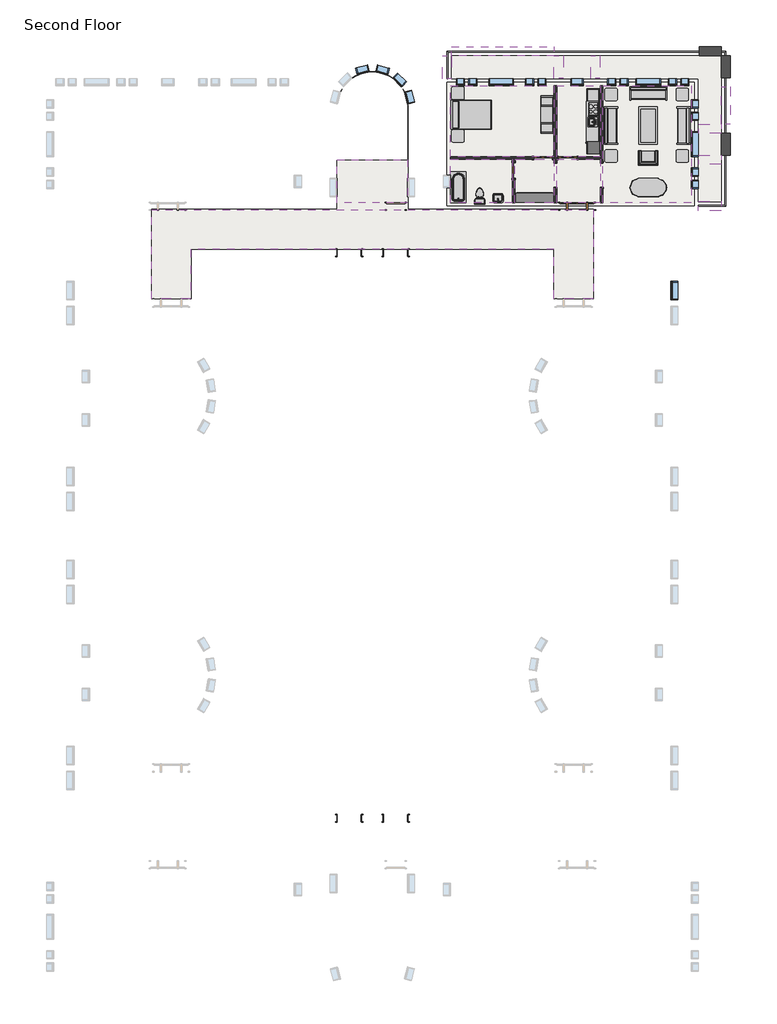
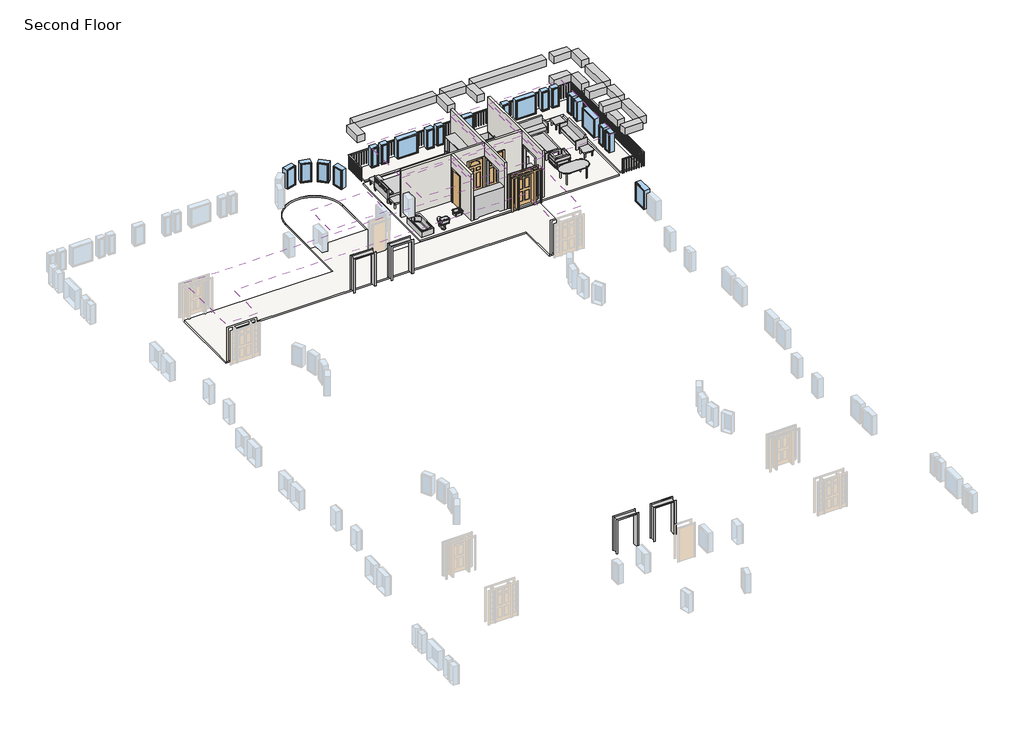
# One storey, part 2 of 2: 21 windows, 15 furniture elements, 11 beams, 8 coverings, 7 proxies, 5 walls, 4 doors, 3 flow terminals, 4 other elements.
"""IFC4 building model written with IfcOpenShell, lengths in millimetres."""

from ifc_helpers import new_model, si_unit, point, frame, frame_2d, origin, place, context, project, spatial, polyline, circle_curve, trimmed, segment, composite_curve, outline, extrude, faceted_brep, transform, mapped, element, save
from components import proxy_64a468c4, proxy_f44482cc, proxy_c3589814, proxy_1659ed5c, door_829da954, door_2e3b4da2, door_4d6c7550, door_dba5aa2e, flow_terminal_0aeb31e3, toilet_domestic_3d_toilet_domestic_3d_f7549cf7, toilet_domestic_3d_toilet_domestic_3d_183bbd19, tub_rectangular_3d_tub_rectangular_3d_5e45a89b, furniture_096e7f55, chair_corbu_chair_corbu_2764bdef, furniture_7c473f12, furniture_ddc78764, furniture_4ef38d96, furniture_cd93a443, furniture_2c34a4f9, furniture_3a588284, furniture_1befe2a2, handrail_rectangular_d66f6947, window_da97879f, window_d61ef850, window_60baf983, window_0e2fc6ce, window_6eb97611

model = new_model("IFC4")

# Units and contexts
model_context = context("Model", 3, world=origin())
ifc_project = project(units=[si_unit("LENGTHUNIT", "METRE", prefix="MILLI")], contexts=[model_context])

# Site, building, storey
site = spatial("IfcSite", under=ifc_project)
building = spatial("IfcBuilding", under=site)
storey = spatial("IfcBuildingStorey", under=building, Name="Second Floor", Elevation=3048.0)

# Beams
placement = place(None, origin())
element("IfcBeam", 1, ObjectType="Concrete-Rectangular Beam : 18 x 18", at=placement, inside=storey, context=model_context, shape_type="SweptSolid", body=[
    extrude(outline(polyline([(2093.9410437, 12198.8316867), (2093.9410437, 11741.6316867), (1027.1410437, 11741.6316867), (1027.1410437, 12198.8316867), (2093.9410437, 12198.8316867)])), frame((0.0, 0.0, 5638.8), z_axis=(0.0, 0.0, 1.0), x_axis=(1.0, 0.0, 0.0)), (0.0, 0.0, 1.0), 457.2),
    extrude(outline(polyline([(569.9410437, 12198.8316867), (569.9410437, 11741.6316867), (-3862.3589563, 11741.6316867), (-3862.3589563, 12198.8316867), (569.9410437, 12198.8316867)])), frame((0.0, 0.0, 5638.8), z_axis=(0.0, 0.0, 1.0), x_axis=(1.0, 0.0, 0.0)), (0.0, 0.0, 1.0), 457.2),
    extrude(outline(polyline([(-5665.7589563, 11741.6316867), (-5665.7589563, 12198.8316867), (-4319.5589563, 12198.8316867), (-4319.5589563, 11741.6316867), (-5665.7589563, 11741.6316867)])), frame((0.0, 0.0, 5638.8), z_axis=(0.0, 0.0, 1.0), x_axis=(1.0, 0.0, 0.0)), (0.0, 0.0, 1.0), 457.2),
    extrude(outline(polyline([(-6122.9589563, 12198.8316867), (-6122.9589563, 11741.6316867), (-11164.8589563, 11741.6316867), (-11164.8589563, 12198.8316867), (-6122.9589563, 12198.8316867)])), frame((0.0, 0.0, 5638.8), z_axis=(0.0, 0.0, 1.0), x_axis=(1.0, 0.0, 0.0)), (0.0, 0.0, 1.0), 457.2),
])
element("IfcBeam", 2, ObjectType="Concrete-Rectangular Beam : 18 x 18", at=placement, inside=storey, context=model_context, shape_type="SweptSolid", body=[
    extrude(outline(polyline([(2093.9410437, 11741.6316867), (2551.1410437, 11741.6316867), (2551.1410437, 10674.8316867), (2093.9410437, 10674.8316867), (2093.9410437, 11741.6316867)])), frame((0.0, 0.0, 5638.8), z_axis=(0.0, 0.0, 1.0), x_axis=(1.0, 0.0, 0.0)), (0.0, 0.0, 1.0), 457.2),
    extrude(outline(polyline([(2551.1410437, 4578.8316867), (2093.9410437, 4578.8316867), (2093.9410437, 6407.6316867), (2551.1410437, 6407.6316867), (2551.1410437, 4578.8316867)])), frame((0.0, 0.0, 5638.8), z_axis=(0.0, 0.0, 1.0), x_axis=(1.0, 0.0, 0.0)), (0.0, 0.0, 1.0), 457.2),
    extrude(outline(polyline([(2551.1410437, 6864.8316867), (2093.9410437, 6864.8316867), (2093.9410437, 7931.6316867), (2551.1410437, 7931.6316867), (2551.1410437, 6864.8316867)])), frame((0.0, 0.0, 5638.8), z_axis=(0.0, 0.0, 1.0), x_axis=(1.0, 0.0, 0.0)), (0.0, 0.0, 1.0), 457.2),
    extrude(outline(polyline([(2093.9410437, 10217.6316867), (2551.1410437, 10217.6316867), (2551.1410437, 8388.8316867), (2093.9410437, 8388.8316867), (2093.9410437, 10217.6316867)])), frame((0.0, 0.0, 5638.8), z_axis=(0.0, 0.0, 1.0), x_axis=(1.0, 0.0, 0.0)), (0.0, 0.0, 1.0), 457.2),
])
element("IfcBeam", 3, ObjectType="Concrete-Rectangular Beam : 18 x 18", at=placement, inside=storey, context=model_context, shape_type="SweptSolid", body=[
    extrude(outline(polyline([(2093.9410437, 12198.8316867), (2093.9410437, 11741.6316867), (1027.1410437, 11741.6316867), (1027.1410437, 12198.8316867), (2093.9410437, 12198.8316867)])), frame((0.0, 0.0, 4114.8), z_axis=(0.0, 0.0, 1.0), x_axis=(1.0, 0.0, 0.0)), (0.0, 0.0, 1.0), 457.2),
])
element("IfcBeam", 4, ObjectType="Concrete-Rectangular Beam : 18 x 18", at=placement, inside=storey, context=model_context, shape_type="SweptSolid", body=[
    extrude(outline(polyline([(2551.1410437, 10674.8316867), (2093.9410437, 10674.8316867), (2093.9410437, 11741.6316867), (2551.1410437, 11741.6316867), (2551.1410437, 10674.8316867)])), frame((0.0, 0.0, 4114.8), z_axis=(0.0, 0.0, 1.0), x_axis=(1.0, 0.0, 0.0)), (0.0, 0.0, 1.0), 457.2),
])
element("IfcBeam", 5, ObjectType="Concrete-Rectangular Beam : 18 x 18", at=placement, inside=storey, context=model_context, shape_type="SweptSolid", body=[
    extrude(outline(polyline([(-11164.8589563, 10624.0316867), (-11622.0589563, 10624.0316867), (-11622.0589563, 11741.6316867), (-11164.8589563, 11741.6316867), (-11164.8589563, 10624.0316867)])), frame((0.0, 0.0, 5638.8), z_axis=(0.0, 0.0, 1.0), x_axis=(1.0, 0.0, 0.0)), (0.0, 0.0, 1.0), 457.2),
])
element("IfcBeam", 6, ObjectType="Concrete-Rectangular Beam : 18 x 18", at=placement, inside=storey, context=model_context, shape_type="SweptSolid", body=[
    extrude(outline(polyline([(-5665.7589563, 10643.0816867), (-6122.9589563, 10643.0816867), (-6122.9589563, 11741.6316867), (-5665.7589563, 11741.6316867), (-5665.7589563, 10643.0816867)])), frame((0.0, 0.0, 5638.8), z_axis=(0.0, 0.0, 1.0), x_axis=(1.0, 0.0, 0.0)), (0.0, 0.0, 1.0), 457.2),
])
element("IfcBeam", 7, ObjectType="Concrete-Rectangular Beam : 18 x 18", at=placement, inside=storey, context=model_context, shape_type="SweptSolid", body=[
    extrude(outline(polyline([(1001.7410437, 6407.6316867), (1001.7410437, 6864.8316867), (2093.9410437, 6864.8316867), (2093.9410437, 6407.6316867), (1001.7410437, 6407.6316867)])), frame((0.0, 0.0, 5638.8), z_axis=(0.0, 0.0, 1.0), x_axis=(1.0, 0.0, 0.0)), (0.0, 0.0, 1.0), 457.2),
])
element("IfcBeam", 8, ObjectType="Concrete-Rectangular Beam : 18 x 18", at=placement, inside=storey, context=model_context, shape_type="SweptSolid", body=[
    extrude(outline(polyline([(-3862.3589563, 10643.0816867), (-4319.5589563, 10643.0816867), (-4319.5589563, 11741.6316867), (-3862.3589563, 11741.6316867), (-3862.3589563, 10643.0816867)])), frame((0.0, 0.0, 5638.8), z_axis=(0.0, 0.0, 1.0), x_axis=(1.0, 0.0, 0.0)), (0.0, 0.0, 1.0), 457.2),
])
element("IfcBeam", 9, ObjectType="Concrete-Rectangular Beam : 18 x 18", at=placement, inside=storey, context=model_context, shape_type="SweptSolid", body=[
    extrude(outline(polyline([(1001.7410437, 7931.6316867), (1001.7410437, 8388.8316867), (2093.9410437, 8388.8316867), (2093.9410437, 7931.6316867), (1001.7410437, 7931.6316867)])), frame((0.0, 0.0, 5638.8), z_axis=(0.0, 0.0, 1.0), x_axis=(1.0, 0.0, 0.0)), (0.0, 0.0, 1.0), 457.2),
])
element("IfcBeam", 10, ObjectType="Concrete-Rectangular Beam : 18 x 18", at=placement, inside=storey, context=model_context, shape_type="SweptSolid", body=[
    extrude(outline(polyline([(976.3410437, 4121.6316867), (976.3410437, 4578.8316867), (2093.9410437, 4578.8316867), (2093.9410437, 4121.6316867), (976.3410437, 4121.6316867)])), frame((0.0, 0.0, 5638.8), z_axis=(0.0, 0.0, 1.0), x_axis=(1.0, 0.0, 0.0)), (0.0, 0.0, 1.0), 457.2),
])
element("IfcBeam", 11, ObjectType="Concrete-Rectangular Beam : 18 x 18", at=placement, inside=storey, context=model_context, shape_type="SweptSolid", body=[
    extrude(outline(polyline([(2551.1410437, 6864.8316867), (2093.9410437, 6864.8316867), (2093.9410437, 7931.6316867), (2551.1410437, 7931.6316867), (2551.1410437, 6864.8316867)])), frame((0.0, 0.0, 4114.8), z_axis=(0.0, 0.0, 1.0), x_axis=(1.0, 0.0, 0.0)), (0.0, 0.0, 1.0), 457.2),
])

# Proxies
proxy_shape = proxy_64a468c4(model_context)
element("IfcBuildingElementProxy", 12, Name="Kitchenette - Medium : 8'6\"", ObjectType="Kitchenette - Medium : 8'6\"", at=placement, inside=storey, context=model_context, shape_type="MappedRepresentation", body=[
    mapped(proxy_shape, transform((-3887.7589563, 8837.7956433, 3048.0), x_axis=(0.0, -1.0, 0.0), y_axis=(1.0, 0.0, 0.0), z_axis=(0.0, 0.0, 1.0))),
])
proxy_2_shape = proxy_f44482cc(model_context)
element("IfcBuildingElementProxy", 13, Name="Opening-Cased : 48\" x 84\"", ObjectType="Opening-Cased : 48\" x 84\"", at=placement, inside=storey, context=model_context, shape_type="MappedRepresentation", body=[
    mapped(proxy_2_shape, transform((-3773.4589563, 5882.4203434, 3048.0), x_axis=(0.0, 1.0, 0.0), y_axis=(-1.0, 0.0, 0.0), z_axis=(0.0, 0.0, 1.0))),
])
element("IfcBuildingElementProxy", 14, Name="Opening-Cased : 48\" x 84\"", ObjectType="Opening-Cased : 48\" x 84\"", at=placement, inside=storey, context=model_context, shape_type="MappedRepresentation", body=[
    mapped(proxy_2_shape, transform((-6059.4589563, 5866.04303, 3048.0), x_axis=(0.0, -1.0, 0.0), y_axis=(1.0, 0.0, 0.0), z_axis=(0.0, 0.0, 1.0))),
])
proxy_3_shape = proxy_c3589814(model_context)
element("IfcBuildingElementProxy", 15, Name="Opening-Cased : 48\" x 84\"", ObjectType="Opening-Cased : 48\" x 84\"", at=placement, inside=storey, context=model_context, shape_type="MappedRepresentation", body=[
    mapped(proxy_3_shape, transform((-16213.360113, 2064.2316867, 3048.0), x_axis=(-1.0, 0.0, 0.0), y_axis=(0.0, -1.0, 0.0), z_axis=(0.0, 0.0, 1.0))),
])
element("IfcBuildingElementProxy", 16, Name="Opening-Cased : 48\" x 84\"", ObjectType="Opening-Cased : 48\" x 84\"", at=placement, inside=storey, context=model_context, shape_type="MappedRepresentation", body=[
    mapped(proxy_3_shape, transform((-13927.360113, 2064.2316867, 3048.0), x_axis=(-1.0, 0.0, 0.0), y_axis=(0.0, -1.0, 0.0), z_axis=(0.0, 0.0, 1.0))),
])
proxy_4_shape = proxy_1659ed5c(model_context)
element("IfcBuildingElementProxy", 17, Name="Opening-Cased : 48\" x 84\"", ObjectType="Opening-Cased : 48\" x 84\"", at=placement, inside=storey, context=model_context, shape_type="MappedRepresentation", body=[
    mapped(proxy_4_shape, transform((-16213.360113, -25755.1183133, 3048.0), x_axis=(-1.0, 0.0, 0.0), y_axis=(0.0, -1.0, 0.0), z_axis=(0.0, 0.0, 1.0))),
])
element("IfcBuildingElementProxy", 18, Name="Opening-Cased : 48\" x 84\"", ObjectType="Opening-Cased : 48\" x 84\"", at=placement, inside=storey, context=model_context, shape_type="MappedRepresentation", body=[
    mapped(proxy_4_shape, transform((-13927.360113, -25755.1183133, 3048.0), x_axis=(-1.0, 0.0, 0.0), y_axis=(0.0, -1.0, 0.0), z_axis=(0.0, 0.0, 1.0))),
])

# Coverings
element("IfcCovering", 19, ObjectType="GWB on Mtl. Stud", at=placement, inside=storey, context=model_context, shape_type="SweptSolid", body=[
    extrude(outline(polyline([(-11217.2464563, 10270.0191867), (-6122.9589563, 10270.0191867), (-6122.9589563, 6787.0441867), (-11217.2464563, 6787.0441867), (-11217.2464563, 10270.0191867)])), frame((0.0, 0.0, 5638.8), z_axis=(0.0, 0.0, 1.0), x_axis=(1.0, 0.0, 0.0)), (0.0, 0.0, 1.0), 107.95),
])
element("IfcCovering", 20, ObjectType="GWB on Mtl. Stud", at=placement, inside=storey, context=model_context, shape_type="SweptSolid", body=[
    extrude(outline(polyline([(-5995.9589563, 6787.0441867), (-5995.9589563, 10270.0191867), (-3836.9589563, 10270.0191867), (-3836.9589563, 6787.0441867), (-5995.9589563, 6787.0441867)])), frame((0.0, 0.0, 5638.8), z_axis=(0.0, 0.0, 1.0), x_axis=(1.0, 0.0, 0.0)), (0.0, 0.0, 1.0), 107.95),
])
element("IfcCovering", 21, ObjectType="GWB on Mtl. Stud", at=placement, inside=storey, context=model_context, shape_type="SweptSolid", body=[
    extrude(outline(polyline([(-3709.9589563, 4526.4441867), (-3709.9589563, 10270.0191867), (622.3285437, 10270.0191867), (622.3285437, 4526.4441867), (-3709.9589563, 4526.4441867)])), frame((0.0, 0.0, 5638.8), z_axis=(0.0, 0.0, 1.0), x_axis=(1.0, 0.0, 0.0)), (0.0, 0.0, 1.0), 107.95),
])
element("IfcCovering", 22, ObjectType="GWB on Mtl. Stud", at=placement, inside=storey, context=model_context, shape_type="SweptSolid", body=[
    extrude(outline(polyline([(-3836.9589563, 4526.4441867), (-5995.9589563, 4526.4441867), (-5995.9589563, 6660.0441867), (-3836.9589563, 6660.0441867), (-3836.9589563, 4526.4441867)])), frame((0.0, 0.0, 5638.8), z_axis=(0.0, 0.0, 1.0), x_axis=(1.0, 0.0, 0.0)), (0.0, 0.0, 1.0), 107.95),
])
element("IfcCovering", 23, ObjectType="GWB on Mtl. Stud", at=placement, inside=storey, context=model_context, shape_type="SweptSolid", body=[
    extrude(outline(polyline([(-6122.9589563, 4526.4441867), (-8042.2464563, 4526.4441867), (-8042.2464563, 6660.0441867), (-6122.9589563, 6660.0441867), (-6122.9589563, 4526.4441867)])), frame((0.0, 0.0, 5638.8), z_axis=(0.0, 0.0, 1.0), x_axis=(1.0, 0.0, 0.0)), (0.0, 0.0, 1.0), 107.95),
])
element("IfcCovering", 24, ObjectType="GWB on Mtl. Stud", at=placement, inside=storey, context=model_context, shape_type="SweptSolid", body=[
    extrude(outline(polyline([(-8169.2464563, 6660.0441867), (-8169.2464563, 4526.4441867), (-11217.2464563, 4526.4441867), (-11217.2464563, 6660.0441867), (-8169.2464563, 6660.0441867)])), frame((0.0, 0.0, 5638.8), z_axis=(0.0, 0.0, 1.0), x_axis=(1.0, 0.0, 0.0)), (0.0, 0.0, 1.0), 107.95),
])
element("IfcCovering", 25, ObjectType="GWB on Mtl. Stud", at=placement, inside=storey, context=model_context, shape_type="SweptSolid", body=[
    extrude(outline(polyline([(-13333.3839563, 4526.4441867), (-16790.9589563, 4526.4441867), (-16790.9589563, 6636.2316867), (-13333.3839563, 6636.2316867), (-13333.3839563, 4526.4441867)])), frame((0.0, 0.0, 5486.4), z_axis=(0.0, 0.0, 1.0), x_axis=(1.0, 0.0, 0.0)), (0.0, 0.0, 1.0), 107.95),
])
element("IfcCovering", 26, ObjectType="GWB on Mtl. Stud", at=placement, inside=storey, context=model_context, shape_type="SweptSolid", body=[
    extrude(outline(polyline([(-6122.9589563, -197.9558133), (-6122.9589563, 2240.4441867), (-24001.3839563, 2240.4441867), (-24001.3839563, -197.9558133), (-25934.9589563, -197.9558133), (-25934.9589563, 4174.0191867), (-4189.3839563, 4174.0191867), (-4189.3839563, -197.9558133), (-6122.9589563, -197.9558133)])), frame((0.0, 0.0, 5486.4), z_axis=(0.0, 0.0, 1.0), x_axis=(1.0, 0.0, 0.0)), (0.0, 0.0, 1.0), 107.95),
])

# Doors
door_shape = door_829da954(model_context)
element("IfcDoor", 27, ObjectType="Single-Decorative 2 : 36\" x 84\"", at=placement, inside=storey, context=model_context, shape_type="MappedRepresentation", body=[
    mapped(door_shape, transform((-5449.8589563, 6723.5441867, 3048.0), x_axis=(-1.0, 0.0, 0.0), y_axis=(0.0, -1.0, 0.0), z_axis=(0.0, 0.0, 1.0))),
])
door_2_shape = door_2e3b4da2(model_context)
element("IfcDoor", 28, ObjectType="Single-Decorative 2 : 36\" x 84\"", at=placement, inside=storey, context=model_context, shape_type="MappedRepresentation", body=[
    mapped(door_2_shape, transform((-6669.0589563, 6723.5441867, 3048.0), x_axis=(1.0, 0.0, 0.0), y_axis=(0.0, 1.0, 0.0), z_axis=(0.0, 0.0, 1.0))),
])
door_3_shape = door_4d6c7550(model_context)
element("IfcDoor", 29, ObjectType="Single-Flush : 30\" x 84\"", at=placement, inside=storey, context=model_context, shape_type="MappedRepresentation", body=[
    mapped(door_3_shape, transform((-8105.7464563, 6113.9441867, 3048.0), x_axis=(0.0, 1.0, 0.0), y_axis=(-1.0, 0.0, 0.0), z_axis=(0.0, 0.0, 1.0))),
])
door_4_shape = door_dba5aa2e(model_context)
element("IfcDoor", 30, ObjectType="Single-Raised Panel with Sidelights : 36\" x 84\"", at=placement, inside=storey, context=model_context, shape_type="MappedRepresentation", body=[
    mapped(door_4_shape, transform((-4992.6589563, 4350.2316867, 3048.0), x_axis=(-1.0, 0.0, 0.0), y_axis=(0.0, -1.0, 0.0), z_axis=(0.0, 0.0, 1.0))),
])

# Flow terminals
flow_terminal_shape = flow_terminal_0aeb31e3(model_context)
element("IfcFlowTerminal", 31, ObjectType="Sink Vanity-Square : 24\" x 19\"", at=placement, inside=storey, context=model_context, shape_type="MappedRepresentation", body=[
    mapped(flow_terminal_shape, transform((-8864.7572157, 4706.5895878, 3048.0), x_axis=(-1.0, 0.0, 0.0), y_axis=(0.0, -1.0, 0.0), z_axis=(0.0, 0.0, 1.0))),
])
toilet_domestic_3d_toilet_domestic_3d_shape = toilet_domestic_3d_toilet_domestic_3d_f7549cf7(model_context)
toilet_domestic_3d_toilet_domestic_3d_2_shape = toilet_domestic_3d_toilet_domestic_3d_183bbd19(model_context)
element("IfcFlowTerminal", 32, ObjectType="Toilet-Domestic-3D : Toilet-Domestic-3D", at=placement, inside=storey, context=model_context, shape_type="MappedRepresentation", body=[
    mapped(toilet_domestic_3d_toilet_domestic_3d_shape, transform((-9782.1466587, 4940.866411, 3048.0), x_axis=(-1.0000000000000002, 0.0, 0.0), y_axis=(0.0, -1.0000000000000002, 0.0), z_axis=(0.0, 0.0, 1.0))),
    mapped(toilet_domestic_3d_toilet_domestic_3d_2_shape, transform((-9782.1466587, 4940.866411, 3048.0), x_axis=(-1.0000000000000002, 0.0, 0.0), y_axis=(0.0, -1.0000000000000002, 0.0), z_axis=(0.0, 0.0, 1.0))),
])
tub_rectangular_3d_tub_rectangular_3d_shape = tub_rectangular_3d_tub_rectangular_3d_5e45a89b(model_context)
element("IfcFlowTerminal", 33, ObjectType="Tub-Rectangular-3D : Tub-Rectangular-3D", at=placement, inside=storey, context=model_context, shape_type="MappedRepresentation", body=[
    mapped(tub_rectangular_3d_tub_rectangular_3d_shape, transform((-11393.4589563, 5637.0471554, 3048.0), x_axis=(0.0, 1.0, 0.0), y_axis=(-1.0, 0.0, 0.0), z_axis=(0.0, 0.0, 1.0))),
])

# Furniture
furniture_shape = furniture_096e7f55(model_context)
element("IfcFurniture", 34, ObjectType="Bed-Shaker : Double 56\" x 78\"", at=placement, inside=storey, context=model_context, shape_type="MappedRepresentation", body=[
    mapped(furniture_shape, transform((-11183.1982802, 8871.8755561, 3048.0), x_axis=(0.0, 1.0, 0.0), y_axis=(-1.0, 0.0, 0.0), z_axis=(0.0, 0.0, 1.0))),
])
chair_corbu_chair_corbu_shape = chair_corbu_chair_corbu_2764bdef(model_context)
element("IfcFurniture", 35, ObjectType="Chair-Corbu : Chair-Corbu", at=placement, inside=storey, context=model_context, shape_type="MappedRepresentation", body=[
    mapped(chair_corbu_chair_corbu_shape, transform((-914.0851858, 7193.4962359, 3048.0), x_axis=(-1.0, 0.0, 0.0), y_axis=(0.0, -1.0, 0.0), z_axis=(0.0, 0.0, 1.0))),
])
furniture_2_shape = furniture_7c473f12(model_context)
element("IfcFurniture", 36, ObjectType="Dresser : 72\" x 60\" x 18\"", at=placement, inside=storey, context=model_context, shape_type="MappedRepresentation", body=[
    mapped(furniture_2_shape, transform((-7344.6522161, 4404.5812326, 3048.0), x_axis=(-1.0, 0.0, 0.0), y_axis=(0.0, -1.0, 0.0), z_axis=(0.0, 0.0, 1.0))),
])
furniture_3_shape = furniture_ddc78764(model_context)
element("IfcFurniture", 37, ObjectType="Entertainment Center : 72\" x 72\" x 24\"", at=placement, inside=storey, context=model_context, shape_type="MappedRepresentation", body=[
    mapped(furniture_3_shape, transform((-6059.4589563, 8852.8255561, 3048.0), x_axis=(0.0, -1.0, 0.0), y_axis=(1.0, 0.0, 0.0), z_axis=(0.0, 0.0, 1.0))),
])
furniture_4_shape = furniture_4ef38d96(model_context)
element("IfcFurniture", 38, ObjectType="Sofa : 72\"", at=placement, inside=storey, context=model_context, shape_type="MappedRepresentation", body=[
    mapped(furniture_4_shape, transform((-1557.8294481, 9741.2775883, 3048.0), x_axis=(1.0, 0.0, 0.0), y_axis=(0.0, 1.0, 0.0), z_axis=(0.0, 0.0, 1.0))),
])
element("IfcFurniture", 39, ObjectType="Sofa : 72\"", at=placement, inside=storey, context=model_context, shape_type="MappedRepresentation", body=[
    mapped(furniture_4_shape, transform((93.5869453, 8383.0021785, 3048.0), x_axis=(0.0, -1.0, 0.0), y_axis=(1.0, 0.0, 0.0), z_axis=(0.0, 0.0, 1.0))),
])
element("IfcFurniture", 40, ObjectType="Sofa : 72\"", at=placement, inside=storey, context=model_context, shape_type="MappedRepresentation", body=[
    mapped(furniture_4_shape, transform((-3170.104858, 8242.2611949, 3048.0), x_axis=(0.0, 1.0, 0.0), y_axis=(-1.0, 0.0, 0.0), z_axis=(0.0, 0.0, 1.0))),
])
furniture_5_shape = furniture_cd93a443(model_context)
element("IfcFurniture", 41, ObjectType="Table-Coffee : 36\" x 72\" x 18\"", at=placement, inside=storey, context=model_context, shape_type="MappedRepresentation", body=[
    mapped(furniture_5_shape, transform((-1582.6700341, 8330.8974534, 3048.0), x_axis=(0.0, -1.0, 0.0), y_axis=(1.0, 0.0, 0.0), z_axis=(0.0, 0.0, 1.0))),
])
furniture_6_shape = furniture_2c34a4f9(model_context)
element("IfcFurniture", 42, ObjectType="Table-Dining Oval : 36\" x 72\"", at=placement, inside=storey, context=model_context, shape_type="MappedRepresentation", body=[
    mapped(furniture_6_shape, transform((-1085.6392842, 5622.7300473, 3048.0), x_axis=(1.0, 0.0, 0.0), y_axis=(0.0, 1.0, 0.0), z_axis=(0.0, 0.0, 1.0))),
])
furniture_7_shape = furniture_3a588284(model_context)
element("IfcFurniture", 43, ObjectType="Table-End : 24\" x 24\"", at=placement, inside=storey, context=model_context, shape_type="MappedRepresentation", body=[
    mapped(furniture_7_shape, transform((-119.5925866, 9684.2316867, 3048.0), x_axis=(1.0, 0.0, 0.0), y_axis=(0.0, 1.0, 0.0), z_axis=(0.0, 0.0, 1.0))),
])
element("IfcFurniture", 44, ObjectType="Table-End : 24\" x 24\"", at=placement, inside=storey, context=model_context, shape_type="MappedRepresentation", body=[
    mapped(furniture_7_shape, transform((-3624.7925866, 9684.2316867, 3048.0), x_axis=(1.0, 0.0, 0.0), y_axis=(0.0, 1.0, 0.0), z_axis=(0.0, 0.0, 1.0))),
])
element("IfcFurniture", 45, ObjectType="Table-End : 24\" x 24\"", at=placement, inside=storey, context=model_context, shape_type="MappedRepresentation", body=[
    mapped(furniture_7_shape, transform((-3624.7925866, 6660.0441867, 3048.0), x_axis=(1.0, 0.0, 0.0), y_axis=(0.0, 1.0, 0.0), z_axis=(0.0, 0.0, 1.0))),
])
element("IfcFurniture", 46, ObjectType="Table-End : 24\" x 24\"", at=placement, inside=storey, context=model_context, shape_type="MappedRepresentation", body=[
    mapped(furniture_7_shape, transform((-119.5925866, 6660.0441867, 3048.0), x_axis=(1.0, 0.0, 0.0), y_axis=(0.0, 1.0, 0.0), z_axis=(0.0, 0.0, 1.0))),
])
element("IfcFurniture", 47, ObjectType="Table-End : 24\" x 24\"", at=placement, inside=storey, context=model_context, shape_type="MappedRepresentation", body=[
    mapped(furniture_7_shape, transform((-11164.2346356, 9756.0737357, 3048.0), x_axis=(1.0, 0.0, 0.0), y_axis=(0.0, 1.0, 0.0), z_axis=(0.0, 0.0, 1.0))),
])
furniture_8_shape = furniture_1befe2a2(model_context)
element("IfcFurniture", 48, ObjectType="Table-End : 24\" x 24\"", at=placement, inside=storey, context=model_context, shape_type="MappedRepresentation", body=[
    mapped(furniture_8_shape, transform((-11164.2346356, 7949.5773764, 3048.0), x_axis=(1.0, 0.0, 0.0), y_axis=(0.0, 1.0, 0.0), z_axis=(0.0, 0.0, 1.0))),
])

# Railing
handrail_rectangular_shape = handrail_rectangular_d66f6947(model_context)
element("IfcRailing", 49, ObjectType="Handrail - Rectangular", at=placement, inside=storey, context=model_context, shape_type="MappedRepresentation", body=[
    mapped(handrail_rectangular_shape, transform((0.0, 0.0, 0.0), x_axis=(1.0, 0.0, 0.0), y_axis=(0.0, 1.0, 0.0), z_axis=(0.0, 0.0, 1.0))),
])

# Slabs
element("IfcSlab", 50, ObjectType="LW Concrete on Metal Deck", at=placement, inside=storey, context=model_context, shape_type="SweptSolid", body=[
    extrude(outline(polyline([(787.4285437, 10435.1191867), (787.4285437, 4361.3441867), (-11382.3464563, 4361.3441867), (-11382.3464563, 10435.1191867), (787.4285437, 10435.1191867)])), frame((0.0, 0.0, 2943.225), z_axis=(0.0, 0.0, 1.0), x_axis=(1.0, 0.0, 0.0)), (0.0, 0.0, 1.0), 104.775),
])
element("IfcSlab", 51, ObjectType="LW Concrete on Metal Deck", at=placement, inside=storey, context=model_context, shape_type="SweptSolid", body=[
    extrude(outline(polyline([(-11164.8589563, 11741.6316867), (2093.9410437, 11741.6316867), (2093.9410437, 4578.8316867), (974.7535437, 4578.8316867), (974.7535437, 10622.4441867), (-11164.8589563, 10622.4441867), (-11164.8589563, 11741.6316867)])), frame((0.0, 0.0, 2943.225), z_axis=(0.0, 0.0, 1.0), x_axis=(1.0, 0.0, 0.0)), (0.0, 0.0, 1.0), 104.775),
])
element("IfcSlab", 52, ObjectType="LW Concrete on Metal Deck", at=placement, inside=storey, context=model_context, shape_type="SweptSolid", body=[
    extrude(outline(composite_curve([segment(polyline([(-13320.6839563, 9227.0316867), (-13320.6839563, 4186.7191867), (-4189.3839563, 4186.7191867), (-4189.3839563, -197.9558133), (-6135.6589563, -197.9558133), (-6135.6589563, 2227.7441867), (-23988.6839563, 2227.7441867), (-23988.6839563, -197.9558133), (-25934.9589563, -197.9558133), (-25934.9589563, 4186.7191867), (-16803.6589563, 4186.7191867), (-16803.6589563, 9227.0316867)]), True, "CONTINUOUS"), segment(trimmed(circle_curve(frame_2d((-15062.1714563, 9227.0316867)), 1741.4875), [point((-16803.6589563, 9227.0316867))], [point((-13320.6839563, 9227.0316867))], False, "CARTESIAN"), True, "CONTINUOUS")], self_intersect=False), holes=[composite_curve([segment(polyline([(-16790.9589563, 6636.2316867), (-13333.3839563, 6636.2316867), (-13333.3839563, 9227.0316867)]), True, "CONTINUOUS"), segment(trimmed(circle_curve(frame_2d((-15062.1714563, 9227.0316867)), 1728.7875), [point((-13333.3839563, 9227.0316867))], [point((-16790.9589563, 9227.0316867))], True, "CARTESIAN"), True, "CONTINUOUS"), segment(polyline([(-16790.9589563, 9227.0316867), (-16790.9589563, 6636.2316867)]), True, "CONTINUOUS")], self_intersect=False)]), frame((0.0, 0.0, 2943.225), z_axis=(0.0, 0.0, 1.0), x_axis=(1.0, 0.0, 0.0)), (0.0, 0.0, 1.0), 104.775),
])

# Walls
element("IfcWall", 53, ObjectType="Interior - 5\" Partition (2-hr)", at=placement, inside=storey, context=model_context, shape_type="Brep", body=[
    faceted_brep([(-3836.9589563, 10270.0191867, 3048.0), (-3836.9589563, 6787.0441867, 3048.0), (-3836.9589563, 6660.0441867, 3048.0), (-3836.9589563, 6483.8316867, 3048.0), (-3836.9589563, 6483.8316867, 5181.6), (-3836.9589563, 5264.6316867, 5181.6), (-3836.9589563, 5264.6316867, 3048.0), (-3836.9589563, 4526.4441867, 3048.0), (-3836.9589563, 4526.4441867, 6096.0), (-3836.9589563, 6660.0441867, 6096.0), (-3836.9589563, 6787.0441867, 6096.0), (-3836.9589563, 10270.0191867, 6096.0), (-3709.9589563, 6483.8316867, 5181.6), (-3709.9589563, 6483.8316867, 3048.0), (-3709.9589563, 10270.0191867, 3048.0), (-3709.9589563, 10270.0191867, 6096.0), (-3709.9589563, 4526.4441867, 6096.0), (-3709.9589563, 4526.4441867, 3048.0), (-3709.9589563, 5264.6316867, 3048.0), (-3709.9589563, 5264.6316867, 5181.6)], [[[0, 1, 2, 3, 4, 5, 6, 7, 8, 9, 10, 11]], [[12, 13, 14, 15, 16, 17, 18, 19]], [[14, 13, 3, 2, 1, 0]], [[18, 17, 7, 6]], [[11, 10, 9, 8, 16, 15]], [[0, 11, 15, 14]], [[8, 7, 17, 16]], [[6, 5, 19, 18]], [[4, 3, 13, 12]], [[5, 4, 12, 19]]]),
])
element("IfcWall", 54, ObjectType="Interior - 5\" Partition (2-hr)", at=placement, inside=storey, context=model_context, shape_type="Brep", body=[
    faceted_brep([(-6122.9589563, 5264.6316867, 5181.6), (-6122.9589563, 5264.6316867, 3048.0), (-6122.9589563, 4526.4441867, 3048.0), (-6122.9589563, 4526.4441867, 6096.0), (-6122.9589563, 6660.0441867, 6096.0), (-6122.9589563, 6787.0441867, 6096.0), (-6122.9589563, 10270.0191867, 6096.0), (-6122.9589563, 10270.0191867, 3048.0), (-6122.9589563, 6787.0441867, 3048.0), (-6122.9589563, 6660.0441867, 3048.0), (-6122.9589563, 6483.8316867, 3048.0), (-6122.9589563, 6483.8316867, 5181.6), (-5995.9589563, 4526.4441867, 3048.0), (-5995.9589563, 5264.6316867, 3048.0), (-5995.9589563, 5264.6316867, 5181.6), (-5995.9589563, 6483.8316867, 5181.6), (-5995.9589563, 6483.8316867, 3048.0), (-5995.9589563, 6660.0441867, 3048.0), (-5995.9589563, 6787.0441867, 3048.0), (-5995.9589563, 10270.0191867, 3048.0), (-5995.9589563, 10270.0191867, 6096.0), (-5995.9589563, 6787.0441867, 6096.0), (-5995.9589563, 6660.0441867, 6096.0), (-5995.9589563, 4526.4441867, 6096.0)], [[[0, 1, 2, 3, 4, 5, 6, 7, 8, 9, 10, 11]], [[12, 13, 14, 15, 16, 17, 18, 19, 20, 21, 22, 23]], [[2, 1, 13, 12]], [[10, 9, 8, 7, 19, 18, 17, 16]], [[6, 5, 4, 3, 23, 22, 21, 20]], [[7, 6, 20, 19]], [[3, 2, 12, 23]], [[16, 15, 11, 10]], [[14, 13, 1, 0]], [[15, 14, 0, 11]]]),
])
element("IfcWall", 55, ObjectType="Interior - 5\" Partition (2-hr)", at=placement, inside=storey, context=model_context, shape_type="Brep", body=[
    faceted_brep([(-6211.8589563, 6660.0441867, 5181.6), (-6211.8589563, 6660.0441867, 3048.0), (-6122.9589563, 6660.0441867, 3048.0), (-6122.9589563, 6660.0441867, 6096.0), (-8042.2464563, 6660.0441867, 6096.0), (-8169.2464563, 6660.0441867, 6096.0), (-11217.2464563, 6660.0441867, 6096.0), (-11217.2464563, 6660.0441867, 3048.0), (-8169.2464563, 6660.0441867, 3048.0), (-8042.2464563, 6660.0441867, 3048.0), (-7126.2589563, 6660.0441867, 3048.0), (-7126.2589563, 6660.0441867, 5181.6), (-6122.9589563, 6787.0441867, 3048.0), (-6211.8589563, 6787.0441867, 3048.0), (-6211.8589563, 6787.0441867, 5181.6), (-7126.2589563, 6787.0441867, 5181.6), (-7126.2589563, 6787.0441867, 3048.0), (-11217.2464563, 6787.0441867, 3048.0), (-11217.2464563, 6787.0441867, 6096.0), (-6122.9589563, 6787.0441867, 6096.0)], [[[0, 1, 2, 3, 4, 5, 6, 7, 8, 9, 10, 11]], [[12, 13, 14, 15, 16, 17, 18, 19]], [[2, 1, 13, 12]], [[10, 9, 8, 7, 17, 16]], [[6, 5, 4, 3, 19, 18]], [[3, 2, 12, 19]], [[7, 6, 18, 17]], [[14, 13, 1, 0]], [[15, 14, 0, 11]], [[16, 15, 11, 10]]]),
])
element("IfcWall", 56, ObjectType="Interior - 5\" Partition (2-hr)", at=placement, inside=storey, context=model_context, shape_type="SweptSolid", body=[
    extrude(outline(polyline([(6660.0441867, 3048.0), (6494.9441867, 3048.0), (6494.9441867, 5181.6), (5732.9441867, 5181.6), (5732.9441867, 3048.0), (4526.4441867, 3048.0), (4526.4441867, 6096.0), (6660.0441867, 6096.0), (6660.0441867, 3048.0)])), frame((-8169.2464563, 0.0, 0.0), z_axis=(1.0, 0.0, 0.0), x_axis=(0.0, 1.0, 0.0)), (0.0, 0.0, 1.0), 127.0),
])
element("IfcWall", 57, ObjectType="Interior - 5\" Partition (2-hr)", at=placement, inside=storey, context=model_context, shape_type="SweptSolid", body=[
    extrude(outline(polyline([(3048.0, -5995.9589563), (3048.0, -5907.0589563), (5181.6, -5907.0589563), (5181.6, -4992.6589563), (3048.0, -4992.6589563), (3048.0, -3836.9589563), (6096.0, -3836.9589563), (6096.0, -5995.9589563), (3048.0, -5995.9589563)])), frame((0.0, 6660.0441867, 0.0), z_axis=(0.0, 1.0, 0.0), x_axis=(0.0, 0.0, 1.0)), (0.0, 0.0, 1.0), 127.0),
])

# Windows
window_shape = window_da97879f(model_context)
element("IfcWindow", 58, ObjectType="Fixed : 16\" x 48\"", at=placement, inside=storey, context=model_context, shape_type="MappedRepresentation", body=[
    mapped(window_shape, transform((-10771.1589563, 10446.2316867, 3048.0), x_axis=(-1.0, 0.0, 0.0), y_axis=(0.0, -1.0, 0.0), z_axis=(0.0, 0.0, 1.0))),
])
element("IfcWindow", 59, ObjectType="Fixed : 16\" x 48\"", at=placement, inside=storey, context=model_context, shape_type="MappedRepresentation", body=[
    mapped(window_shape, transform((-10161.5589563, 10446.2316867, 3048.0), x_axis=(-1.0, 0.0, 0.0), y_axis=(0.0, -1.0, 0.0), z_axis=(0.0, 0.0, 1.0))),
])
element("IfcWindow", 60, ObjectType="Fixed : 16\" x 48\"", at=placement, inside=storey, context=model_context, shape_type="MappedRepresentation", body=[
    mapped(window_shape, transform((-3328.9589563, 10446.2316867, 3048.0), x_axis=(-1.0, 0.0, 0.0), y_axis=(0.0, -1.0, 0.0), z_axis=(0.0, 0.0, 1.0))),
])
element("IfcWindow", 61, ObjectType="Fixed : 16\" x 48\"", at=placement, inside=storey, context=model_context, shape_type="MappedRepresentation", body=[
    mapped(window_shape, transform((-2719.3589563, 10446.2316867, 3048.0), x_axis=(-1.0, 0.0, 0.0), y_axis=(0.0, -1.0, 0.0), z_axis=(0.0, 0.0, 1.0))),
])
element("IfcWindow", 62, ObjectType="Fixed : 16\" x 48\"", at=placement, inside=storey, context=model_context, shape_type="MappedRepresentation", body=[
    mapped(window_shape, transform((798.5410437, 9417.5316867, 3048.0), x_axis=(0.0, 1.0, 0.0), y_axis=(-1.0, 0.0, 0.0), z_axis=(0.0, 0.0, 1.0))),
])
element("IfcWindow", 63, ObjectType="Fixed : 16\" x 48\"", at=placement, inside=storey, context=model_context, shape_type="MappedRepresentation", body=[
    mapped(window_shape, transform((798.5410437, 8807.9316867, 3048.0), x_axis=(0.0, 1.0, 0.0), y_axis=(-1.0, 0.0, 0.0), z_axis=(0.0, 0.0, 1.0))),
])
window_2_shape = window_d61ef850(model_context)
element("IfcWindow", 64, ObjectType="Fixed : 16\" x 48\"", at=placement, inside=storey, context=model_context, shape_type="MappedRepresentation", body=[
    mapped(window_2_shape, transform((-6681.7589563, 10446.2316867, 3048.0), x_axis=(1.0, 0.0, 0.0), y_axis=(0.0, 1.0, 0.0), z_axis=(0.0, 0.0, 1.0))),
])
element("IfcWindow", 65, ObjectType="Fixed : 16\" x 48\"", at=placement, inside=storey, context=model_context, shape_type="MappedRepresentation", body=[
    mapped(window_2_shape, transform((-7291.3589563, 10446.2316867, 3048.0), x_axis=(1.0, 0.0, 0.0), y_axis=(0.0, 1.0, 0.0), z_axis=(0.0, 0.0, 1.0))),
])
element("IfcWindow", 66, ObjectType="Fixed : 16\" x 48\"", at=placement, inside=storey, context=model_context, shape_type="MappedRepresentation", body=[
    mapped(window_2_shape, transform((354.0410437, 10446.2316867, 3048.0), x_axis=(1.0, 0.0, 0.0), y_axis=(0.0, 1.0, 0.0), z_axis=(0.0, 0.0, 1.0))),
])
element("IfcWindow", 67, ObjectType="Fixed : 16\" x 48\"", at=placement, inside=storey, context=model_context, shape_type="MappedRepresentation", body=[
    mapped(window_2_shape, transform((-255.5589563, 10446.2316867, 3048.0), x_axis=(1.0, 0.0, 0.0), y_axis=(0.0, 1.0, 0.0), z_axis=(0.0, 0.0, 1.0))),
])
element("IfcWindow", 68, ObjectType="Fixed : 16\" x 48\"", at=placement, inside=storey, context=model_context, shape_type="MappedRepresentation", body=[
    mapped(window_2_shape, transform((798.5410437, 5378.9316867, 3048.0), x_axis=(0.0, -1.0, 0.0), y_axis=(1.0, 0.0, 0.0), z_axis=(0.0, 0.0, 1.0))),
])
element("IfcWindow", 69, ObjectType="Fixed : 16\" x 48\"", at=placement, inside=storey, context=model_context, shape_type="MappedRepresentation", body=[
    mapped(window_2_shape, transform((798.5410437, 5988.5316867, 3048.0), x_axis=(0.0, -1.0, 0.0), y_axis=(1.0, 0.0, 0.0), z_axis=(0.0, 0.0, 1.0))),
])
window_3_shape = window_60baf983(model_context)
element("IfcWindow", 70, ObjectType="Fixed : 24\" x 48\"", at=placement, inside=storey, context=model_context, shape_type="MappedRepresentation", body=[
    mapped(window_3_shape, transform((-5030.7589563, 10446.2316867, 3048.0), x_axis=(-1.0, 0.0, 0.0), y_axis=(0.0, -1.0, 0.0), z_axis=(0.0, 0.0, 1.0))),
])
element("IfcWindow", 71, ObjectType="Fixed : 24\" x 48\"", at=placement, inside=storey, context=model_context, shape_type="MappedRepresentation", body=[
    mapped(window_3_shape, transform((-15580.7015108, 11037.1722121, 3048.0), x_axis=(-0.9667100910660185, -0.25587418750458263, 0.0), y_axis=(0.25587418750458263, -0.9667100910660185, 0.0), z_axis=(0.0, 0.0, 1.0))),
])
element("IfcWindow", 72, ObjectType="Fixed : 24\" x 48\"", at=placement, inside=storey, context=model_context, shape_type="MappedRepresentation", body=[
    mapped(window_3_shape, transform((-14606.1613934, 11053.9243933, 3048.0), x_axis=(-0.9651325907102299, 0.2617614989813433, 0.0), y_axis=(-0.2617614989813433, -0.9651325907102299, 0.0), z_axis=(0.0, 0.0, 1.0))),
])
element("IfcWindow", 73, ObjectType="Fixed : 24\" x 48\"", at=placement, inside=storey, context=model_context, shape_type="MappedRepresentation", body=[
    mapped(window_3_shape, transform((-13753.8088042, 10581.1621492, 3048.0), x_axis=(-0.7049485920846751, 0.7092584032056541, 0.0), y_axis=(-0.7092584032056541, -0.7049485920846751, 0.0), z_axis=(0.0, 0.0, 1.0))),
])
element("IfcWindow", 74, ObjectType="Fixed : 24\" x 48\"", at=placement, inside=storey, context=model_context, shape_type="MappedRepresentation", body=[
    mapped(window_3_shape, transform((-13252.0309309, 9745.5617412, 3048.0), x_axis=(-0.25587418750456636, 0.9667100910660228, 0.0), y_axis=(-0.9667100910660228, -0.25587418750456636, 0.0), z_axis=(0.0, 0.0, 1.0))),
])
window_4_shape = window_0e2fc6ce(model_context)
element("IfcWindow", 75, ObjectType="Fixed : 36\" x 48\"", at=placement, inside=storey, context=model_context, shape_type="MappedRepresentation", body=[
    mapped(window_4_shape, transform((-203.1714563, 156.0566867, 3048.0), x_axis=(0.0, -1.0, 0.0), y_axis=(1.0, 0.0, 0.0), z_axis=(0.0, 0.0, 1.0))),
])
window_5_shape = window_6eb97611(model_context)
element("IfcWindow", 76, ObjectType="Fixed : 48\" x 48\"", at=placement, inside=storey, context=model_context, shape_type="MappedRepresentation", body=[
    mapped(window_5_shape, transform((-8764.5589563, 10446.2316867, 3048.0), x_axis=(-1.0, 0.0, 0.0), y_axis=(0.0, -1.0, 0.0), z_axis=(0.0, 0.0, 1.0))),
])
element("IfcWindow", 77, ObjectType="Fixed : 48\" x 48\"", at=placement, inside=storey, context=model_context, shape_type="MappedRepresentation", body=[
    mapped(window_5_shape, transform((-1525.5589563, 10446.2316867, 3048.0), x_axis=(-1.0, 0.0, 0.0), y_axis=(0.0, -1.0, 0.0), z_axis=(0.0, 0.0, 1.0))),
])
element("IfcWindow", 78, ObjectType="Fixed : 48\" x 48\"", at=placement, inside=storey, context=model_context, shape_type="MappedRepresentation", body=[
    mapped(window_5_shape, transform((798.5410437, 7436.3316867, 3048.0), x_axis=(0.0, 1.0, 0.0), y_axis=(-1.0, 0.0, 0.0), z_axis=(0.0, 0.0, 1.0))),
])

save(model, "model.ifc")
